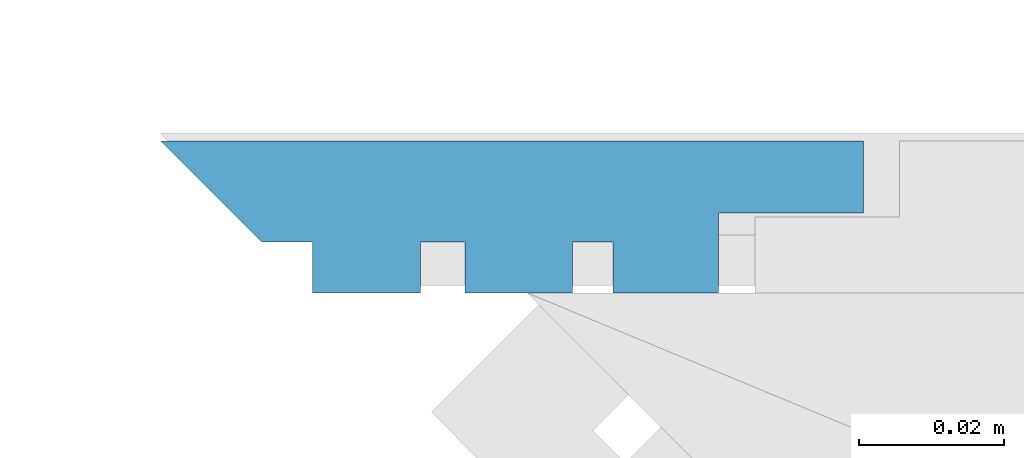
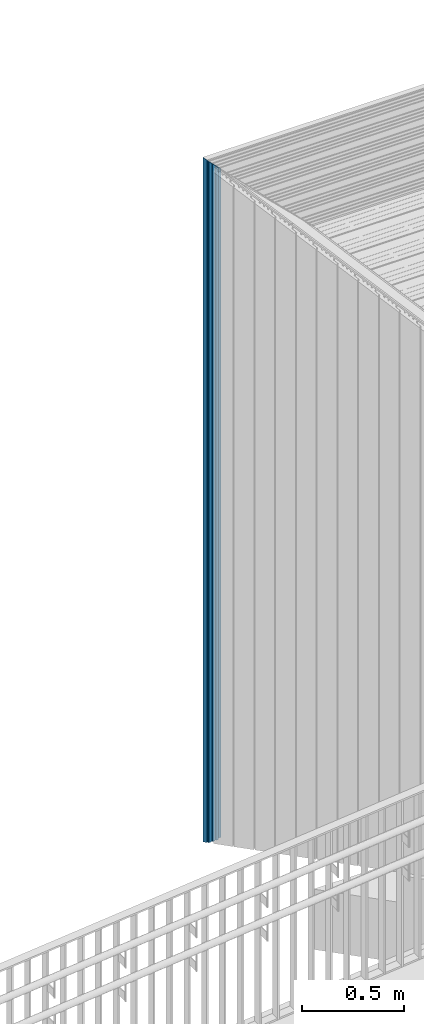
# One storey, part 139 of 418: 1 building element part, 1 element without a shape of its own.
"""IFC2X3 building model written with IfcOpenShell, lengths in millimetres."""

from ifc_helpers import new_model, entity, si_unit, converted_unit, derived_unit, money_unit, direction, frame, origin_with_axes, place, context, subcontext, project, spatial, polyline, outline, extrude, boolean, faceted_brep, material, type_object, element, aggregate, save


model = new_model("IFC2X3")

# Units and contexts
model_context = context("Model", 3, precision=0.01, world=origin_with_axes(), true_north=direction((0.0, 1.0)))
body_context = subcontext(model_context, "Body", "Model", "MODEL_VIEW")
ifc_project = project(units=[si_unit("LENGTHUNIT", "METRE", prefix="MILLI"), si_unit("AREAUNIT", "SQUARE_METRE"), si_unit("VOLUMEUNIT", "CUBIC_METRE"), converted_unit("PLANEANGLEUNIT", "DEGREE", entity("IfcPlaneAngleMeasure", 0.0174532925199), si_unit("PLANEANGLEUNIT", "RADIAN"), dimensions=[0, 0, 0, 0, 0, 0, 0]), si_unit("SOLIDANGLEUNIT", "STERADIAN"), money_unit("EUR"), converted_unit("TIMEUNIT", "Year", entity("IfcTimeMeasure", 31556926.0), si_unit("TIMEUNIT", "SECOND"), dimensions=[0, 0, 1, 0, 0, 0, 0]), si_unit("MASSUNIT", "GRAM", prefix="KILO"), si_unit("THERMODYNAMICTEMPERATUREUNIT", "DEGREE_CELSIUS"), si_unit("LUMINOUSINTENSITYUNIT", "LUMEN"), si_unit("ENERGYUNIT", "JOULE", prefix="MEGA"), derived_unit("THERMALCONDUCTANCEUNIT", [(si_unit("POWERUNIT", "WATT"), 1), (si_unit("LENGTHUNIT", "METRE"), -1), (si_unit("THERMODYNAMICTEMPERATUREUNIT", "KELVIN"), -1)]), derived_unit("SPECIFICHEATCAPACITYUNIT", [(si_unit("ENERGYUNIT", "JOULE"), 1), (si_unit("MASSUNIT", "GRAM", prefix="KILO"), -1), (si_unit("THERMODYNAMICTEMPERATUREUNIT", "KELVIN"), -1)]), derived_unit("MASSDENSITYUNIT", [(si_unit("MASSUNIT", "GRAM", prefix="KILO"), 1), (si_unit("VOLUMEUNIT", "CUBIC_METRE"), -1)])], contexts=[model_context])

# Site, building, storey
site_placement = place(None, origin_with_axes())
site = spatial("IfcSite", under=ifc_project, at=site_placement, Name="Paldiski mnt 245/1, Tallinn, Harjumaa", CompositionType="COMPLEX")
building_placement = place(site_placement, origin_with_axes())
building = spatial("IfcBuilding", under=site, at=building_placement, Name="RKAS Hoone üldnimetus (kasutust iseloomustav) -> IFC Project Manager -> SOLIBRI", CompositionType="ELEMENT")
storey_placement = place(building_placement, origin_with_axes())
storey = spatial("IfcBuildingStorey", under=building, at=storey_placement, Name="Esimene korrus", CompositionType="ELEMENT", Elevation=0.0)

# Proxy, building element part
building_element_proxy_type = type_object("IfcBuildingElementProxyType", Name="Laudis esiprofiil_01 21 x 622", PredefinedType="NOTDEFINED")
proxy_placement = place(storey_placement, frame((-54498.5561962, 39788.252735, 0.0), z_axis=(0.0, 0.0, 1.0), x_axis=(0.0, 1.0, 0.0)))
proxy = element("IfcBuildingElementProxy", 1, at=proxy_placement, inside=storey, type_object=building_element_proxy_type, Name="Varikatus")
ifc_material = material(Name="Laudis 5072 Honka 45 horisontaalne raastas")
building_element_part_placement = place(proxy_placement, origin_with_axes())
building_element_part = element("IfcBuildingElementPart", 2, at=building_element_part_placement, material=ifc_material, Name="Laudis 5072 Honka 45 horisontaalne raastas", context=body_context, shape_type="CSG", body=[
    boolean("DIFFERENCE", boolean("DIFFERENCE", boolean("DIFFERENCE", boolean("DIFFERENCE", boolean("DIFFERENCE", boolean("DIFFERENCE", extrude(outline(polyline([(-21.0000013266, -55.7545733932), (-14.0000008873, -55.7545748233), (-14.0000008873, -61.3952431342), (-21.0000013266, -61.3952431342), (-21.0000013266, -75.9714304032), (-10.0000014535, -75.9714304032), (-10.0000000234, -95.9714304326), (-1.43879088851e-06, -95.9714304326), (8.28322394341e-09, 1.13997680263), (-14.0000008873, -12.860024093), (-14.0000008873, -19.8600231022), (-20.9999998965, -19.8600231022), (-20.9999998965, -34.7991407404), (-14.0000008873, -34.7991393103), (-14.0000008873, -40.9260801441), (-20.9999998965, -40.9260801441), (-21.0000013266, -55.7545733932)])), origin_with_axes(), (0.0, 0.0, 1.0), 4086.15997799), faceted_brep([(-10.0000002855, -515.971430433, 3569.02857075), (-7.63172636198e-07, -515.971430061, 3569.02857112), (-7.63172636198e-07, -515.971430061, 4086.15997799), (-10.0000002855, -515.971430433, 4086.15997799), (3.20312665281e-08, -415.971430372, 3669.02857081), (-10.000001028, -495.971430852, 3589.02857033), (-21.0000007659, -495.971429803, 3589.02857138), (-21.0000010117, -481.395242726, 3603.60475846), (-14.0000015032, -481.395242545, 3603.60475864), (-14.0000008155, -475.754574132, 3609.24542705), (-21.0000013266, -475.754573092, 3609.24542809), (-21.0000002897, -460.926080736, 3624.07392045), (-14.0000007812, -460.926080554, 3624.07392063), (-14.0000002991, -454.799139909, 3630.20086128), (-20.9999998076, -454.79914009, 3630.20086109), (-20.99999981, -439.860022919, 3645.13997827), (-14.0000003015, -439.860022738, 3645.13997845), (-14.0000005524, -433.497525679, 3651.50247551), (-21.0000010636, -433.497524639, 3651.50247655), (-20.9999998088, -395.971430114, 3689.02857107), (-10.5000005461, -395.971429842, 3689.02857134), (-10.5000010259, -415.971430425, 3669.02857076), (3.20312665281e-08, -415.971430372, 4086.15997799), (-10.5000010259, -415.971430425, 4086.15997799), (-10.5000005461, -395.971429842, 4086.15997799), (-20.9999998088, -395.971430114, 4086.15997799), (-21.0000010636, -433.497524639, 4086.15997799), (-14.0000005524, -433.497525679, 4086.15997799), (-14.0000003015, -439.860022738, 4086.15997799), (-20.99999981, -439.860022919, 4086.15997799), (-20.9999998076, -454.79914009, 4086.15997799), (-14.0000002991, -454.799139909, 4086.15997799), (-14.0000007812, -460.926080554, 4086.15997799), (-21.0000002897, -460.926080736, 4086.15997799), (-21.0000013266, -475.754573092, 4086.15997799), (-14.0000008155, -475.754574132, 4086.15997799), (-14.0000015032, -481.395242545, 4086.15997799), (-21.0000010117, -481.395242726, 4086.15997799), (-21.0000007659, -495.971429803, 4086.15997799), (-10.000001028, -495.971430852, 4086.15997799)], [[[0, 1, 2, 3]], [[4, 1, 0, 5, 6, 7, 8, 9, 10, 11, 12, 13, 14, 15, 16, 17, 18, 19, 20, 21]], [[1, 4, 22, 2]], [[2, 22, 23, 24, 25, 26, 27, 28, 29, 30, 31, 32, 33, 34, 35, 36, 37, 38, 39, 3]], [[5, 0, 3, 39]], [[6, 5, 39, 38]], [[7, 6, 38, 37]], [[8, 7, 37, 36]], [[9, 8, 36, 35]], [[10, 9, 35, 34]], [[11, 10, 34, 33]], [[12, 11, 33, 32]], [[13, 12, 32, 31]], [[14, 13, 31, 30]], [[15, 14, 30, 29]], [[16, 15, 29, 28]], [[17, 16, 28, 27]], [[18, 17, 27, 26]], [[19, 18, 26, 25]], [[20, 19, 25, 24]], [[21, 20, 24, 23]], [[4, 21, 23, 22]]])), faceted_brep([(-10.0000002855, -620.971430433, 3464.02857075), (-7.63172636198e-07, -620.971430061, 3464.02857112), (-7.63172636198e-07, -620.971430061, 4086.15997799), (-10.0000002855, -620.971430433, 4086.15997799), (3.20312665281e-08, -520.971430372, 3564.02857081), (-10.000001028, -600.971430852, 3484.02857033), (-21.0000007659, -600.971429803, 3484.02857138), (-21.0000010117, -586.395242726, 3498.60475846), (-14.0000015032, -586.395242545, 3498.60475864), (-14.0000008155, -580.754574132, 3504.24542705), (-21.0000013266, -580.754573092, 3504.24542809), (-21.0000002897, -565.926080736, 3519.07392045), (-14.0000007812, -565.926080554, 3519.07392063), (-14.0000002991, -559.799139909, 3525.20086128), (-20.9999998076, -559.79914009, 3525.20086109), (-20.99999981, -544.860022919, 3540.13997827), (-14.0000003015, -544.860022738, 3540.13997845), (-14.0000005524, -538.497525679, 3546.50247551), (-21.0000010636, -538.497524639, 3546.50247655), (-20.9999998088, -500.971430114, 3584.02857107), (-10.5000005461, -500.971429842, 3584.02857134), (-10.5000010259, -520.971430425, 3564.02857076), (3.20312665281e-08, -520.971430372, 4086.15997799), (-10.5000010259, -520.971430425, 4086.15997799), (-10.5000005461, -500.971429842, 4086.15997799), (-20.9999998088, -500.971430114, 4086.15997799), (-21.0000010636, -538.497524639, 4086.15997799), (-14.0000005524, -538.497525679, 4086.15997799), (-14.0000003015, -544.860022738, 4086.15997799), (-20.99999981, -544.860022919, 4086.15997799), (-20.9999998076, -559.79914009, 4086.15997799), (-14.0000002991, -559.799139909, 4086.15997799), (-14.0000007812, -565.926080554, 4086.15997799), (-21.0000002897, -565.926080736, 4086.15997799), (-21.0000013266, -580.754573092, 4086.15997799), (-14.0000008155, -580.754574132, 4086.15997799), (-14.0000015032, -586.395242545, 4086.15997799), (-21.0000010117, -586.395242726, 4086.15997799), (-21.0000007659, -600.971429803, 4086.15997799), (-10.000001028, -600.971430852, 4086.15997799)], [[[0, 1, 2, 3]], [[4, 1, 0, 5, 6, 7, 8, 9, 10, 11, 12, 13, 14, 15, 16, 17, 18, 19, 20, 21]], [[1, 4, 22, 2]], [[2, 22, 23, 24, 25, 26, 27, 28, 29, 30, 31, 32, 33, 34, 35, 36, 37, 38, 39, 3]], [[5, 0, 3, 39]], [[6, 5, 39, 38]], [[7, 6, 38, 37]], [[8, 7, 37, 36]], [[9, 8, 36, 35]], [[10, 9, 35, 34]], [[11, 10, 34, 33]], [[12, 11, 33, 32]], [[13, 12, 32, 31]], [[14, 13, 31, 30]], [[15, 14, 30, 29]], [[16, 15, 29, 28]], [[17, 16, 28, 27]], [[18, 17, 27, 26]], [[19, 18, 26, 25]], [[20, 19, 25, 24]], [[21, 20, 24, 23]], [[4, 21, 23, 22]]])), faceted_brep([(-10.0000002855, -305.971430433, 3779.02857075), (-7.63179741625e-07, -305.971430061, 3779.02857112), (-7.63179741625e-07, -305.971430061, 4086.15997799), (-10.0000002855, -305.971430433, 4086.15997799), (3.20312665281e-08, -205.971430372, 3879.02857081), (-10.000001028, -285.971430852, 3799.02857033), (-21.0000007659, -285.971429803, 3799.02857138), (-21.0000010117, -271.395242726, 3813.60475846), (-14.0000015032, -271.395242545, 3813.60475864), (-14.0000008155, -265.754574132, 3819.24542705), (-21.0000013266, -265.754573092, 3819.24542809), (-21.0000002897, -250.926080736, 3834.07392045), (-14.0000007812, -250.926080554, 3834.07392063), (-14.0000002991, -244.799139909, 3840.20086128), (-20.9999998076, -244.79914009, 3840.20086109), (-20.99999981, -229.860022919, 3855.13997827), (-14.0000003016, -229.860022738, 3855.13997845), (-14.0000005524, -223.497525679, 3861.50247551), (-21.0000010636, -223.497524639, 3861.50247655), (-20.9999998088, -185.971430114, 3899.02857107), (-10.5000005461, -185.971429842, 3899.02857134), (-10.5000010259, -205.971430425, 3879.02857076), (3.20312665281e-08, -205.971430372, 4086.15997799), (-10.5000010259, -205.971430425, 4086.15997799), (-10.5000005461, -185.971429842, 4086.15997799), (-20.9999998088, -185.971430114, 4086.15997799), (-21.0000010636, -223.497524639, 4086.15997799), (-14.0000005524, -223.497525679, 4086.15997799), (-14.0000003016, -229.860022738, 4086.15997799), (-20.99999981, -229.860022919, 4086.15997799), (-20.9999998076, -244.79914009, 4086.15997799), (-14.0000002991, -244.799139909, 4086.15997799), (-14.0000007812, -250.926080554, 4086.15997799), (-21.0000002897, -250.926080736, 4086.15997799), (-21.0000013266, -265.754573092, 4086.15997799), (-14.0000008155, -265.754574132, 4086.15997799), (-14.0000015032, -271.395242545, 4086.15997799), (-21.0000010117, -271.395242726, 4086.15997799), (-21.0000007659, -285.971429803, 4086.15997799), (-10.000001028, -285.971430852, 4086.15997799)], [[[0, 1, 2, 3]], [[4, 1, 0, 5, 6, 7, 8, 9, 10, 11, 12, 13, 14, 15, 16, 17, 18, 19, 20, 21]], [[1, 4, 22, 2]], [[2, 22, 23, 24, 25, 26, 27, 28, 29, 30, 31, 32, 33, 34, 35, 36, 37, 38, 39, 3]], [[5, 0, 3, 39]], [[6, 5, 39, 38]], [[7, 6, 38, 37]], [[8, 7, 37, 36]], [[9, 8, 36, 35]], [[10, 9, 35, 34]], [[11, 10, 34, 33]], [[12, 11, 33, 32]], [[13, 12, 32, 31]], [[14, 13, 31, 30]], [[15, 14, 30, 29]], [[16, 15, 29, 28]], [[17, 16, 28, 27]], [[18, 17, 27, 26]], [[19, 18, 26, 25]], [[20, 19, 25, 24]], [[21, 20, 24, 23]], [[4, 21, 23, 22]]])), faceted_brep([(-10.0000002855, -410.971430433, 3674.02857075), (-7.63172636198e-07, -410.971430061, 3674.02857112), (-7.63172636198e-07, -410.971430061, 4086.15997799), (-10.0000002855, -410.971430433, 4086.15997799), (3.20312665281e-08, -310.971430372, 3774.02857081), (-10.000001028, -390.971430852, 3694.02857033), (-21.0000007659, -390.971429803, 3694.02857138), (-21.0000010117, -376.395242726, 3708.60475846), (-14.0000015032, -376.395242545, 3708.60475864), (-14.0000008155, -370.754574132, 3714.24542705), (-21.0000013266, -370.754573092, 3714.24542809), (-21.0000002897, -355.926080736, 3729.07392045), (-14.0000007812, -355.926080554, 3729.07392063), (-14.0000002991, -349.799139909, 3735.20086128), (-20.9999998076, -349.79914009, 3735.20086109), (-20.99999981, -334.860022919, 3750.13997827), (-14.0000003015, -334.860022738, 3750.13997845), (-14.0000005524, -328.497525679, 3756.50247551), (-21.0000010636, -328.497524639, 3756.50247655), (-20.9999998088, -290.971430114, 3794.02857107), (-10.5000005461, -290.971429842, 3794.02857134), (-10.5000010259, -310.971430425, 3774.02857076), (3.20312665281e-08, -310.971430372, 4086.15997799), (-10.5000010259, -310.971430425, 4086.15997799), (-10.5000005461, -290.971429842, 4086.15997799), (-20.9999998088, -290.971430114, 4086.15997799), (-21.0000010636, -328.497524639, 4086.15997799), (-14.0000005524, -328.497525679, 4086.15997799), (-14.0000003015, -334.860022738, 4086.15997799), (-20.99999981, -334.860022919, 4086.15997799), (-20.9999998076, -349.79914009, 4086.15997799), (-14.0000002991, -349.799139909, 4086.15997799), (-14.0000007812, -355.926080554, 4086.15997799), (-21.0000002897, -355.926080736, 4086.15997799), (-21.0000013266, -370.754573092, 4086.15997799), (-14.0000008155, -370.754574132, 4086.15997799), (-14.0000015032, -376.395242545, 4086.15997799), (-21.0000010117, -376.395242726, 4086.15997799), (-21.0000007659, -390.971429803, 4086.15997799), (-10.000001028, -390.971430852, 4086.15997799)], [[[0, 1, 2, 3]], [[4, 1, 0, 5, 6, 7, 8, 9, 10, 11, 12, 13, 14, 15, 16, 17, 18, 19, 20, 21]], [[1, 4, 22, 2]], [[2, 22, 23, 24, 25, 26, 27, 28, 29, 30, 31, 32, 33, 34, 35, 36, 37, 38, 39, 3]], [[5, 0, 3, 39]], [[6, 5, 39, 38]], [[7, 6, 38, 37]], [[8, 7, 37, 36]], [[9, 8, 36, 35]], [[10, 9, 35, 34]], [[11, 10, 34, 33]], [[12, 11, 33, 32]], [[13, 12, 32, 31]], [[14, 13, 31, 30]], [[15, 14, 30, 29]], [[16, 15, 29, 28]], [[17, 16, 28, 27]], [[18, 17, 27, 26]], [[19, 18, 26, 25]], [[20, 19, 25, 24]], [[21, 20, 24, 23]], [[4, 21, 23, 22]]])), faceted_brep([(-10.0000000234, -95.9714304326, 3989.02857075), (-1.4387921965e-06, -95.9714304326, 3989.02857075), (-1.4387921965e-06, -95.9714304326, 4086.15997799), (-10.0000000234, -95.9714304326, 4086.15997799), (8.28492829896e-09, 1.13997680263, 4086.13997799), (-10.0000014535, -75.9714304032, 4009.02857078), (-21.0000013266, -75.9714304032, 4009.02857078), (-21.0000013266, -61.3952431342, 4023.60475805), (-14.0000008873, -61.3952431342, 4023.60475805), (-14.0000008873, -55.7545748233, 4029.24542636), (-21.0000013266, -55.7545733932, 4029.24542779), (-20.9999998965, -40.9260801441, 4044.07392104), (-14.0000008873, -40.9260801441, 4044.07392104), (-14.0000008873, -34.7991393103, 4050.20086187), (-20.9999998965, -34.7991407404, 4050.20086044), (-20.9999998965, -19.8600231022, 4065.13997808), (-14.0000008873, -19.8600231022, 4065.13997808), (-14.0000008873, -12.860024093, 4072.13997709), (8.28492829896e-09, 1.13997680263, 4086.15997799), (-20.9999998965, -40.9260801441, 4086.15997799), (-21.0000013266, -55.7545733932, 4086.15997799), (-14.0000008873, -55.7545748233, 4086.15997799), (-14.0000008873, -61.3952431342, 4086.15997799), (-21.0000013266, -61.3952431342, 4086.15997799), (-21.0000013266, -75.9714304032, 4086.15997799), (-10.0000014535, -75.9714304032, 4086.15997799), (-14.0000008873, -12.860024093, 4086.15997799), (-14.0000008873, -19.8600231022, 4086.15997799), (-20.9999998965, -19.8600231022, 4086.15997799), (-20.9999998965, -34.7991407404, 4086.15997799), (-14.0000008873, -34.7991393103, 4086.15997799), (-14.0000008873, -40.9260801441, 4086.15997799)], [[[0, 1, 2, 3]], [[4, 1, 0, 5, 6, 7, 8, 9, 10, 11, 12, 13, 14, 15, 16, 17]], [[1, 4, 18, 2]], [[19, 20, 21, 22, 23, 24, 25, 3, 2, 18, 26, 27, 28, 29, 30, 31]], [[5, 0, 3, 25]], [[6, 5, 25, 24]], [[7, 6, 24, 23]], [[8, 7, 23, 22]], [[9, 8, 22, 21]], [[10, 9, 21, 20]], [[11, 10, 20, 19]], [[12, 11, 19, 31]], [[13, 12, 31, 30]], [[14, 13, 30, 29]], [[15, 14, 29, 28]], [[16, 15, 28, 27]], [[17, 16, 27, 26]], [[4, 17, 26, 18]]])), faceted_brep([(-10.0000002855, -200.971430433, 3884.02857075), (-7.63179741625e-07, -200.971430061, 3884.02857112), (-7.63179741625e-07, -200.971430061, 4086.15997799), (-10.0000002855, -200.971430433, 4086.15997799), (3.20312665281e-08, -100.971430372, 3984.02857081), (-10.000001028, -180.971430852, 3904.02857033), (-21.0000007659, -180.971429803, 3904.02857138), (-21.0000010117, -166.395242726, 3918.60475846), (-14.0000015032, -166.395242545, 3918.60475864), (-14.0000008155, -160.754574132, 3924.24542705), (-21.0000013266, -160.754573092, 3924.24542809), (-21.0000002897, -145.926080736, 3939.07392045), (-14.0000007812, -145.926080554, 3939.07392063), (-14.0000002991, -139.799139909, 3945.20086128), (-20.9999998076, -139.79914009, 3945.20086109), (-20.99999981, -124.860022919, 3960.13997827), (-14.0000003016, -124.860022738, 3960.13997845), (-14.0000005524, -118.497525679, 3966.50247551), (-21.0000010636, -118.497524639, 3966.50247655), (-20.9999998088, -80.9714301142, 4004.02857107), (-10.5000005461, -80.9714298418, 4004.02857134), (-10.5000010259, -100.971430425, 3984.02857076), (3.20312665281e-08, -100.971430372, 4086.15997799), (-10.5000010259, -100.971430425, 4086.15997799), (-10.5000005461, -80.9714298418, 4086.15997799), (-20.9999998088, -80.9714301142, 4086.15997799), (-21.0000010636, -118.497524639, 4086.15997799), (-14.0000005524, -118.497525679, 4086.15997799), (-14.0000003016, -124.860022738, 4086.15997799), (-20.99999981, -124.860022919, 4086.15997799), (-20.9999998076, -139.79914009, 4086.15997799), (-14.0000002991, -139.799139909, 4086.15997799), (-14.0000007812, -145.926080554, 4086.15997799), (-21.0000002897, -145.926080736, 4086.15997799), (-21.0000013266, -160.754573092, 4086.15997799), (-14.0000008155, -160.754574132, 4086.15997799), (-14.0000015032, -166.395242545, 4086.15997799), (-21.0000010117, -166.395242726, 4086.15997799), (-21.0000007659, -180.971429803, 4086.15997799), (-10.000001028, -180.971430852, 4086.15997799)], [[[0, 1, 2, 3]], [[4, 1, 0, 5, 6, 7, 8, 9, 10, 11, 12, 13, 14, 15, 16, 17, 18, 19, 20, 21]], [[1, 4, 22, 2]], [[2, 22, 23, 24, 25, 26, 27, 28, 29, 30, 31, 32, 33, 34, 35, 36, 37, 38, 39, 3]], [[5, 0, 3, 39]], [[6, 5, 39, 38]], [[7, 6, 38, 37]], [[8, 7, 37, 36]], [[9, 8, 36, 35]], [[10, 9, 35, 34]], [[11, 10, 34, 33]], [[12, 11, 33, 32]], [[13, 12, 32, 31]], [[14, 13, 31, 30]], [[15, 14, 30, 29]], [[16, 15, 29, 28]], [[17, 16, 28, 27]], [[18, 17, 27, 26]], [[19, 18, 26, 25]], [[20, 19, 25, 24]], [[21, 20, 24, 23]], [[4, 21, 23, 22]]])),
])
aggregate(proxy, [building_element_part])

save(model, "model.ifc")
